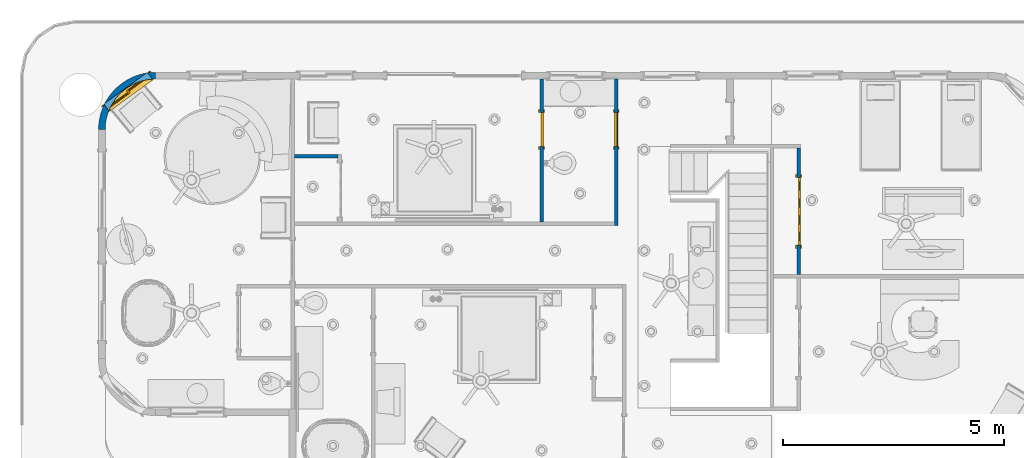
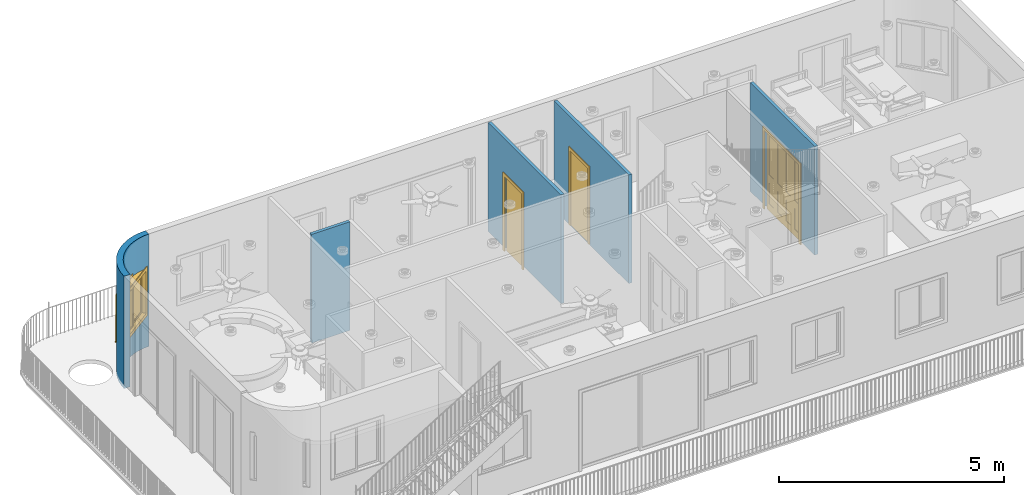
# One storey, part 5 of 28: 5 walls, 3 doors, 1 window, 4 openings.
"""IFC2X3 building model written with IfcOpenShell, lengths in feet."""

from ifc_helpers import new_model, entity, si_unit, converted_unit, derived_unit, direction, frame, frame_2d, origin, origin_2d_with_axis, place, context, subcontext, project, spatial, polyline, circle_curve, parameter, trimmed, segment, composite_curve, rectangle, outline, extrude, source, transform, mapped, material, material_list, layer, layer_set, layer_usage, type_object, type_shapes, element, fill, save


model = new_model("IFC2X3")

# Units and contexts
model_context = context("Model", 3, precision=0.0001, world=origin(), true_north=direction((6.12303176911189e-17, 1.0)))
body_context = subcontext(model_context, "Body", "Model", "MODEL_VIEW")
ifc_project = project(units=[converted_unit("LENGTHUNIT", "FOOT", entity("IfcRatioMeasure", 0.3048), si_unit("LENGTHUNIT", "METRE"), dimensions=[1, 0, 0, 0, 0, 0, 0]), converted_unit("AREAUNIT", "SQUARE FOOT", entity("IfcRatioMeasure", 0.09290304), si_unit("AREAUNIT", "SQUARE_METRE"), dimensions=[2, 0, 0, 0, 0, 0, 0]), converted_unit("VOLUMEUNIT", "CUBIC FOOT", entity("IfcRatioMeasure", 0.028316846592), si_unit("VOLUMEUNIT", "CUBIC_METRE"), dimensions=[3, 0, 0, 0, 0, 0, 0]), converted_unit("PLANEANGLEUNIT", "DEGREE", entity("IfcRatioMeasure", 0.0174532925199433), si_unit("PLANEANGLEUNIT", "RADIAN"), dimensions=[0, 0, 0, 0, 0, 0, 0]), si_unit("MASSUNIT", "GRAM", prefix="KILO"), derived_unit("MASSDENSITYUNIT", [(si_unit("MASSUNIT", "GRAM", prefix="KILO"), 1), (si_unit("LENGTHUNIT", "METRE"), -3)]), si_unit("TIMEUNIT", "SECOND"), si_unit("FREQUENCYUNIT", "HERTZ"), si_unit("THERMODYNAMICTEMPERATUREUNIT", "DEGREE_CELSIUS"), derived_unit("THERMALTRANSMITTANCEUNIT", [(si_unit("MASSUNIT", "GRAM", prefix="KILO"), 1), (si_unit("THERMODYNAMICTEMPERATUREUNIT", "KELVIN"), -1), (si_unit("TIMEUNIT", "SECOND"), -3)]), derived_unit("VOLUMETRICFLOWRATEUNIT", [(si_unit("LENGTHUNIT", "METRE"), 3), (si_unit("TIMEUNIT", "SECOND"), -1)]), si_unit("ELECTRICCURRENTUNIT", "AMPERE"), si_unit("ELECTRICVOLTAGEUNIT", "VOLT"), si_unit("POWERUNIT", "WATT"), si_unit("FORCEUNIT", "NEWTON"), si_unit("ILLUMINANCEUNIT", "LUX"), si_unit("LUMINOUSFLUXUNIT", "LUMEN"), si_unit("LUMINOUSINTENSITYUNIT", "CANDELA"), derived_unit("USERDEFINED", [(si_unit("MASSUNIT", "GRAM", prefix="KILO"), -1), (si_unit("LENGTHUNIT", "METRE"), -2), (si_unit("TIMEUNIT", "SECOND"), 3), (si_unit("LUMINOUSFLUXUNIT", "LUMEN"), 1)]), derived_unit("LINEARVELOCITYUNIT", [(si_unit("LENGTHUNIT", "METRE"), 1), (si_unit("TIMEUNIT", "SECOND"), -1)]), si_unit("PRESSUREUNIT", "PASCAL"), derived_unit("USERDEFINED", [(si_unit("LENGTHUNIT", "METRE"), -2), (si_unit("MASSUNIT", "GRAM", prefix="KILO"), 1), (si_unit("TIMEUNIT", "SECOND"), -2)])], contexts=[model_context])

# Site, building, storey
site_placement = place(None, origin())
site = spatial("IfcSite", under=ifc_project, at=site_placement, Name="表面", CompositionType="ELEMENT")
building_placement = place(site_placement, origin())
building = spatial("IfcBuilding", under=site, at=building_placement, CompositionType="ELEMENT")
storey_placement = place(building_placement, frame((0.0, 0.0, 10.0)))
storey = spatial("IfcBuildingStorey", under=building, at=storey_placement, Name="Level 2", CompositionType="ELEMENT", Elevation=9.99999999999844)

# Wall, opening, window
ifc_material_1 = material(Name="Paint")
ifc_layer_1 = layer(ifc_material_1, 0.333333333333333)
ifc_material_2 = material(Name="Paints and Coatings")
ifc_layer_2 = layer(ifc_material_2, 0.166666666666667)
ifc_layer_set_1 = layer_set([ifc_layer_1, ifc_layer_2], Name="基本墙:Generic - 4\" Brick")
ifc_layer_usage_1 = layer_usage(ifc_layer_set_1, "AXIS2", "POSITIVE", -0.25)
wall_type_1 = type_object("IfcWallType", Name="基本墙:Generic - 4\" Brick", PredefinedType="STANDARD", material=ifc_layer_set_1)
wall_1_placement = place(storey_placement, frame((-34.0349130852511, 12.6823936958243, 0.0)))
wall_1 = element("IfcWallStandardCase", 1, at=wall_1_placement, inside=storey, type_object=wall_type_1, material=ifc_layer_usage_1, Name="基本墙:Generic - 4\" Brick", ObjectType="基本墙:Generic - 4\" Brick:257", context=body_context, shape_type="SweptSolid", body=[
    extrude(outline(composite_curve([segment(trimmed(circle_curve(frame_2d((4.0, 0.0), x_axis=(1.0, 0.0)), 4.25), [parameter(89.9999999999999)], [parameter(180.0)], True, "PARAMETER"), True, "CONTINUOUS"), segment(polyline([(-0.25, 0.0), (0.25, 0.0)]), True, "CONTINUOUS"), segment(trimmed(circle_curve(frame_2d((4.0, 0.0), x_axis=(1.0, 0.0)), 3.75), [parameter(89.9999999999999)], [parameter(180.0)], True, "PARAMETER"), False, "CONTINUOUS"), segment(polyline([(4.0, 3.75000000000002), (4.0, 4.25000000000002)]), True, "CONTINUOUS")], self_intersect=False)), origin(), (0.0, 0.0, 1.0), 9.99999999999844),
])
opening_1_placement = place(wall_1_placement, frame((2.8701933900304, -1.8463156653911, 3.0)))
opening_1 = element("IfcOpeningElement", 2, at=opening_1_placement, cuts=wall_1, Name="Slider with Trim:48\" x 48\":1", ObjectType="Opening", context=body_context, shape_type="SweptSolid", body=[
    extrude(rectangle(XDim=3.99999999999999, YDim=3.99999999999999, at=frame_2d((2.0, 2.0), x_axis=(-1.0, 0.0))), frame((0.0, 0.0, 0.0), z_axis=(-0.588497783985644, 0.808498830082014, 0.0), x_axis=(0.0, 0.0, 1.0)), (0.0, 0.0, 1.0), 4.62701640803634),
])
ifc_material_3 = material(Name="Glass")
ifc_material_4 = material(Name="Sash")
ifc_material_5 = material(Name="Trim")
ifc_material_list_1 = material_list([ifc_material_3, ifc_material_4, ifc_material_5])
ifc_material_list_2 = material_list([ifc_material_3, ifc_material_4, ifc_material_5])
window_style = type_object("IfcWindowStyle", Name="48\" x 48\"", ConstructionType="NOTDEFINED", OperationType="NOTDEFINED", ParameterTakesPrecedence=False, Sizeable=False, material=ifc_material_list_2)
shared_shape_1 = source(origin(), body_context, "Body", "SweptSolid", [
    extrude(rectangle(XDim=0.0416666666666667, YDim=1.71875000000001, at=origin_2d_with_axis()), frame((1.06770833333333, 0.21875, 0.208333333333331), z_axis=(0.0, 0.0, 1.0), x_axis=(0.0, -1.0, 0.0)), (0.0, 0.0, 1.0), 3.58333333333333),
    extrude(outline(polyline([(-1.00520833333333, -1.9375), (1.00520833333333, -1.9375), (1.00520833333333, 1.9375), (-1.00520833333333, 1.9375), (-1.00520833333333, -1.9375)]), holes=[polyline([(-0.859374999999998, -1.79166666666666), (-0.859374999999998, 1.79166666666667), (0.859374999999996, 1.79166666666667), (0.859374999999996, -1.79166666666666), (-0.859374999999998, -1.79166666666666)])]), frame((1.06770833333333, 0.145833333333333, 2.0), z_axis=(0.0, 1.0, 0.0), x_axis=(1.0, 0.0, 0.0)), (0.0, 0.0, 1.0), 0.145833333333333),
    extrude(rectangle(XDim=0.104166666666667, YDim=4.45833333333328, at=frame_2d((-2.77555756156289e-17, 0.0), x_axis=(1.0, 0.0))), frame((2.0, 0.552083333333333, 0.0), z_axis=(0.0, 0.0, 1.0), x_axis=(0.0, -1.0, 0.0)), (0.0, 0.0, 1.0), 0.0624999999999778),
    extrude(outline(polyline([(-1.86458333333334, 1.9375), (2.01041666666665, 1.9375), (2.01041666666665, 2.22916666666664), (-2.15624999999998, 2.22916666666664), (-2.15624999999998, -2.22916666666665), (2.01041666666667, -2.22916666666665), (2.01041666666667, -1.93749999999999), (-1.86458333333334, -1.93749999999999), (-1.86458333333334, 1.9375)])), frame((2.0, 0.5, 2.07291666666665), z_axis=(0.0, 1.0, 0.0), x_axis=(0.0, 0.0, -1.0)), (0.0, 0.0, 1.0), 0.0625),
    extrude(outline(polyline([(-2.18749999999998, -2.18749999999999), (2.18749999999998, -2.18749999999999), (2.18749999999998, 2.18749999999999), (-2.18749999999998, 2.18749999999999), (-2.18749999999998, -2.18749999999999)]), holes=[polyline([(-1.89583333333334, -1.89583333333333), (-1.89583333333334, 1.89583333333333), (1.89583333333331, 1.89583333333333), (1.89583333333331, -1.89583333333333), (-1.89583333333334, -1.89583333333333)])]), frame((2.0, -0.0625, 2.0), z_axis=(0.0, 1.0, 0.0), x_axis=(0.0, 0.0, -1.0)), (0.0, 0.0, 1.0), 0.0625),
    extrude(rectangle(XDim=0.0416666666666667, YDim=1.71874999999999, at=frame_2d((1.38777878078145e-17, 0.0), x_axis=(1.0, 0.0))), frame((2.93229166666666, 0.364583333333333, 0.208333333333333), z_axis=(0.0, 0.0, 1.0), x_axis=(0.0, 1.0, 0.0)), (0.0, 0.0, 1.0), 3.58333333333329),
    extrude(outline(polyline([(-1.00520833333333, -1.93749999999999), (1.00520833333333, -1.93749999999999), (1.00520833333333, 1.93749999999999), (-1.00520833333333, 1.93749999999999), (-1.00520833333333, -1.93749999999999)]), holes=[polyline([(-0.859374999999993, -1.79166666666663), (-0.859374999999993, 1.79166666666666), (0.859374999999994, 1.79166666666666), (0.859374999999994, -1.79166666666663), (-0.859374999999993, -1.79166666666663)])]), frame((2.93229166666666, 0.291666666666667, 2.0), z_axis=(0.0, 1.0, 0.0), x_axis=(1.0, 0.0, 0.0)), (0.0, 0.0, 1.0), 0.145833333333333),
    extrude(outline(polyline([(-2.0, -2.0), (2.0, -2.0), (2.0, 2.0), (-2.0, 2.0), (-2.0, -2.0)]), holes=[polyline([(-1.89583333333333, -1.89583333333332), (-1.89583333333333, 1.89583333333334), (1.89583333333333, 1.89583333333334), (1.89583333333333, -1.89583333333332), (-1.89583333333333, -1.89583333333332)])]), frame((2.0, 0.0, 2.0), z_axis=(0.0, 1.0, 0.0), x_axis=(1.0, 0.0, 0.0)), (0.0, 0.0, 1.0), 0.145833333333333),
    extrude(outline(polyline([(-2.0, -2.0), (2.0, -2.0), (2.0, 2.0), (-2.0, 2.0), (-2.0, -2.0)]), holes=[polyline([(-1.9375, -1.93749999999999), (-1.9375, 1.9375), (1.9375, 1.9375), (1.9375, -1.93749999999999), (-1.9375, -1.93749999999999)])]), frame((2.0, 0.145833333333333, 2.0), z_axis=(0.0, 1.0, 0.0), x_axis=(0.0, 0.0, -1.0)), (0.0, 0.0, 1.0), 0.354166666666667),
])
type_shapes(window_style, [shared_shape_1])
window_placement = place(opening_1_placement, frame((-2.35399099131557, 3.23399512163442, 0.0), z_axis=(0.0, 0.0, 1.0), x_axis=(0.808498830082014, 0.588497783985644, 0.0)))
window = element("IfcWindow", 3, at=window_placement, inside=storey, type_object=window_style, material=ifc_material_list_1, Name="Slider with Trim:48\" x 48\"", ObjectType="48\" x 48\"", OverallHeight=3.99999999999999, OverallWidth=3.99999999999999, context=body_context, shape_type="MappedRepresentation", body=[
    mapped(shared_shape_1, transform((0.0, 0.0, 0.0), scale=1.0)),
])
fill(opening_1, window)

# Wall, opening, door
ifc_material_6 = material(Name="Gypsum Wall Board")
ifc_layer_3 = layer(ifc_material_6, 0.0416666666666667)
ifc_layer_4 = layer(ifc_material_6, 0.0208333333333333)
ifc_material_7 = material(Name="Metal - Stud Layer")
ifc_layer_5 = layer(ifc_material_7, 0.135416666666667)
ifc_layer_6 = layer(ifc_material_6, 0.0208333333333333)
ifc_layer_7 = layer(ifc_material_6, 0.0416666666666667)
ifc_layer_set_2 = layer_set([ifc_layer_3, ifc_layer_4, ifc_layer_5, ifc_layer_6, ifc_layer_7], Name="基本墙:Interior - 3 1/8\" Partition (1-hr)")
ifc_layer_usage_2 = layer_usage(ifc_layer_set_2, "AXIS2", "NEGATIVE", 0.130208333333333)
wall_type_2 = type_object("IfcWallType", Name="基本墙:Interior - 3 1/8\" Partition (1-hr)", PredefinedType="STANDARD", material=ifc_layer_set_2)
wall_2_placement = place(storey_placement, frame((-1.36824641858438, 5.81260202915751, 0.250000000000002), z_axis=(0.0, 0.0, 1.0), x_axis=(0.0, 1.0, 0.0)))
wall_2 = element("IfcWallStandardCase", 4, at=wall_2_placement, inside=storey, type_object=wall_type_2, material=ifc_layer_usage_2, Name="基本墙:Interior - 3 1/8\" Partition (1-hr)", ObjectType="基本墙:Interior - 3 1/8\" Partition (1-hr):258", context=body_context, shape_type="SweptSolid", body=[
    extrude(rectangle(XDim=10.6197916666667, YDim=0.260416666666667, at=frame_2d((5.30989583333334, 2.77555756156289e-17), x_axis=(-1.0, 0.0))), origin(), (0.0, 0.0, 1.0), 9.66666666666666),
])
opening_2_placement = place(wall_2_placement, frame((8.11979166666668, 0.130208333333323, -0.250000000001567)))
opening_2 = element("IfcOpeningElement", 5, at=opening_2_placement, cuts=wall_2, Name="Single-Flush:30\" x 80\":1", ObjectType="Opening", context=body_context, shape_type="SweptSolid", body=[
    extrude(rectangle(XDim=2.5, YDim=6.66666666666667, at=frame_2d((3.33333333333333, 1.25), x_axis=(0.0, 1.0))), frame((0.0, 0.0, 0.0), z_axis=(0.0, -1.0, 0.0), x_axis=(0.0, 0.0, 1.0)), (0.0, 0.0, 1.0), 0.260416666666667),
])
ifc_material_8 = material(Name="Door - Frame")
ifc_material_9 = material(Name="Door - Panel")
ifc_material_list_3 = material_list([ifc_material_8, ifc_material_9])
ifc_material_list_4 = material_list([ifc_material_8, ifc_material_9])
door_style_1 = type_object("IfcDoorStyle", Name="30\" x 80\"", ConstructionType="NOTDEFINED", OperationType="SINGLE_SWING_RIGHT", ParameterTakesPrecedence=False, Sizeable=False, material=ifc_material_list_4)
shared_shape_2 = source(origin(), body_context, "Body", "SweptSolid", [
    extrude(outline(polyline([(-1.5, -3.52083333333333), (1.5, -3.52083333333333), (1.5, 3.39583333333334), (1.25, 3.39583333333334), (1.25, -3.27083333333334), (-1.25, -3.27083333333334), (-1.25, 3.39583333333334), (-1.5, 3.39583333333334), (-1.5, -3.52083333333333)])), frame((1.25, 0.260416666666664, 3.39583333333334), z_axis=(0.0, 1.0, 0.0), x_axis=(1.0, 0.0, 0.0)), (0.0, 0.0, 1.0), 0.0833333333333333),
    extrude(outline(polyline([(-3.52083333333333, -1.49999999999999), (3.39583333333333, -1.49999999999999), (3.39583333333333, -1.25000000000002), (-3.27083333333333, -1.25000000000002), (-3.27083333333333, 1.25000000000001), (3.39583333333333, 1.25000000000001), (3.39583333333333, 1.50000000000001), (-3.52083333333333, 1.50000000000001), (-3.52083333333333, -1.49999999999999)])), frame((1.25000000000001, -0.0833333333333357, 3.39583333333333), z_axis=(0.0, 1.0, 0.0), x_axis=(0.0, 0.0, -1.0)), (0.0, 0.0, 1.0), 0.0833333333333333),
    extrude(rectangle(XDim=0.166666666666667, YDim=2.5, at=origin_2d_with_axis()), frame((1.25, 0.177083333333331, 0.0), z_axis=(0.0, 0.0, 1.0), x_axis=(0.0, 1.0, 0.0)), (0.0, 0.0, 1.0), 6.66666666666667),
])
type_shapes(door_style_1, [shared_shape_2])
door_1_placement = place(opening_2_placement, frame((0.0, 0.0, 0.0), z_axis=(0.0, 0.0, 1.0), x_axis=(-1.0, 0.0, 0.0)))
door_1 = element("IfcDoor", 6, at=door_1_placement, inside=storey, type_object=door_style_1, material=ifc_material_list_3, Name="Single-Flush:30\" x 80\"", ObjectType="30\" x 80\"", OverallHeight=6.66666666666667, OverallWidth=2.5, context=body_context, shape_type="MappedRepresentation", body=[
    mapped(shared_shape_2, transform((0.0, 0.0, 0.0), scale=1.0)),
])
fill(opening_2, door_1)

# Wall
ifc_layer_usage_3 = layer_usage(ifc_layer_set_2, "AXIS2", "NEGATIVE", 0.130208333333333)
wall_3_placement = place(storey_placement, frame((-16.4984547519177, 10.6823936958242, 0.250000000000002), z_axis=(0.0, 0.0, 1.0), x_axis=(-1.0, 0.0, 0.0)))
element("IfcWallStandardCase", 7, at=wall_3_placement, inside=storey, type_object=wall_type_2, material=ifc_layer_usage_3, Name="基本墙:Interior - 3 1/8\" Partition (1-hr)", ObjectType="基本墙:Interior - 3 1/8\" Partition (1-hr):258", context=body_context, shape_type="SweptSolid", body=[
    extrude(rectangle(XDim=3.23958333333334, YDim=0.260416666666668, at=frame_2d((1.61979166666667, -4.02455846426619e-16), x_axis=(-1.0, 0.0))), origin(), (0.0, 0.0, 1.0), 9.66666666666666),
])

# Wall, opening, door
ifc_layer_usage_4 = layer_usage(ifc_layer_set_2, "AXIS2", "NEGATIVE", 0.130208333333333)
wall_4_placement = place(storey_placement, frame((4.17862858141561, 5.55218536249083, 0.250000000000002), z_axis=(0.0, 0.0, 1.0), x_axis=(0.0, 1.0, 0.0)))
wall_4 = element("IfcWallStandardCase", 8, at=wall_4_placement, inside=storey, type_object=wall_type_2, material=ifc_layer_usage_4, Name="基本墙:Interior - 3 1/8\" Partition (1-hr)", ObjectType="基本墙:Interior - 3 1/8\" Partition (1-hr):258", context=body_context, shape_type="SweptSolid", body=[
    extrude(rectangle(XDim=10.8802083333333, YDim=0.260416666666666, at=frame_2d((5.44010416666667, -9.71445146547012e-17), x_axis=(-1.0, 0.0))), origin(), (0.0, 0.0, 1.0), 9.66666666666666),
])
opening_3_placement = place(wall_4_placement, frame((5.88020833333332, -0.13020833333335, 0.0833333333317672)))
opening_3 = element("IfcOpeningElement", 9, at=opening_3_placement, cuts=wall_4, Name="Single-Flush:30\" x 80\":1", ObjectType="Opening", context=body_context, shape_type="SweptSolid", body=[
    extrude(rectangle(XDim=2.5, YDim=6.66666666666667, at=frame_2d((3.33333333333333, 1.25), x_axis=(0.0, -1.0))), frame((0.0, 0.0, 0.0), z_axis=(0.0, 1.0, 0.0), x_axis=(0.0, 0.0, 1.0)), (0.0, 0.0, 1.0), 0.260416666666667),
])
ifc_material_list_5 = material_list([ifc_material_8, ifc_material_9])
ifc_material_list_6 = material_list([ifc_material_8, ifc_material_9])
door_style_2 = type_object("IfcDoorStyle", Name="30\" x 80\"", ConstructionType="NOTDEFINED", OperationType="SINGLE_SWING_LEFT", ParameterTakesPrecedence=False, Sizeable=False, material=ifc_material_list_6)
shared_shape_3 = source(origin(), body_context, "Body", "SweptSolid", [
    extrude(outline(polyline([(-1.5, -3.52083333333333), (1.5, -3.52083333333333), (1.5, 3.39583333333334), (1.25, 3.39583333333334), (1.25, -3.27083333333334), (-1.25, -3.27083333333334), (-1.25, 3.39583333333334), (-1.5, 3.39583333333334), (-1.5, -3.52083333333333)])), frame((1.25, 0.34374999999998, 3.39583333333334), z_axis=(0.0, -1.0, 0.0), x_axis=(-1.0, 0.0, 0.0)), (0.0, 0.0, 1.0), 0.0833333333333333),
    extrude(outline(polyline([(-3.52083333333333, -1.49999999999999), (3.39583333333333, -1.49999999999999), (3.39583333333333, -1.25000000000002), (-3.27083333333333, -1.25000000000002), (-3.27083333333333, 1.25000000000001), (3.39583333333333, 1.25000000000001), (3.39583333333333, 1.50000000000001), (-3.52083333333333, 1.50000000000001), (-3.52083333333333, -1.49999999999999)])), frame((1.24999999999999, 0.0, 3.39583333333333), z_axis=(0.0, -1.0, 0.0), x_axis=(0.0, 0.0, -1.0)), (0.0, 0.0, 1.0), 0.0833333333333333),
    extrude(rectangle(XDim=2.5, YDim=0.166666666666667, at=origin_2d_with_axis()), frame((1.25, 0.177083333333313, 0.0)), (0.0, 0.0, 1.0), 6.66666666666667),
])
type_shapes(door_style_2, [shared_shape_3])
door_2_placement = place(opening_3_placement, origin())
door_2 = element("IfcDoor", 10, at=door_2_placement, inside=storey, type_object=door_style_2, material=ifc_material_list_5, Name="Single-Flush:30\" x 80\"", ObjectType="30\" x 80\"", OverallHeight=6.66666666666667, OverallWidth=2.5, context=body_context, shape_type="MappedRepresentation", body=[
    mapped(shared_shape_3, transform((0.0, 0.0, 0.0), scale=1.0)),
])
fill(opening_3, door_2)

ifc_layer_usage_5 = layer_usage(ifc_layer_set_2, "AXIS2", "NEGATIVE", 0.130208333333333)
wall_5_placement = place(storey_placement, frame((17.7150869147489, 11.3021853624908, 0.250000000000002), z_axis=(0.0, 0.0, 1.0), x_axis=(0.0, -1.0, 0.0)))
wall_5 = element("IfcWallStandardCase", 11, at=wall_5_placement, inside=storey, type_object=wall_type_2, material=ifc_layer_usage_5, Name="基本墙:Interior - 3 1/8\" Partition (1-hr)", ObjectType="基本墙:Interior - 3 1/8\" Partition (1-hr):258", context=body_context, shape_type="SweptSolid", body=[
    extrude(rectangle(XDim=9.40624999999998, YDim=0.260416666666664, at=frame_2d((4.70312499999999, -1.94289029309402e-16), x_axis=(-1.0, 0.0))), origin(), (0.0, 0.0, 1.0), 9.66666666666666),
])
opening_4_placement = place(wall_5_placement, frame((2.20312499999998, -0.13020833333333, -0.250000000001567)))
opening_4 = element("IfcOpeningElement", 12, at=opening_4_placement, cuts=wall_5, Name="Bifold-4 Panel:60\" x 84\":1", ObjectType="Opening", context=body_context, shape_type="SweptSolid", body=[
    extrude(rectangle(XDim=7.0, YDim=5.0, at=frame_2d((3.5, 2.5), x_axis=(1.0, 0.0))), frame((0.0, 0.0, 0.0), z_axis=(0.0, 1.0, 0.0), x_axis=(0.0, 0.0, 1.0)), (0.0, 0.0, 1.0), 0.260416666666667),
])
ifc_material_list_7 = material_list([ifc_material_9, ifc_material_8])
ifc_material_list_8 = material_list([ifc_material_9, ifc_material_8])
door_style_3 = type_object("IfcDoorStyle", Name="60\" x 84\"", ConstructionType="NOTDEFINED", OperationType="NOTDEFINED", ParameterTakesPrecedence=False, Sizeable=False, material=ifc_material_list_8)
shared_shape_4 = source(origin(), body_context, "Body", "SweptSolid", [
    extrude(rectangle(XDim=0.0416666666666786, YDim=0.666666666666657, at=frame_2d((6.93889390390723e-18, 0.0), x_axis=(1.0, 0.0))), frame((0.624999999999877, 0.197916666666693, 3.16666666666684), z_axis=(0.0, 0.0, 1.0), x_axis=(0.0, -1.0, 0.0)), (0.0, 0.0, 1.0), 3.56250000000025),
    extrude(rectangle(XDim=0.0416666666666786, YDim=0.666666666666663, at=frame_2d((-6.93889390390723e-18, 0.0), x_axis=(1.0, 0.0))), frame((4.37499999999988, 0.19791666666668, 3.16666666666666), z_axis=(0.0, 0.0, 1.0), x_axis=(0.0, -1.0, 0.0)), (0.0, 0.0, 1.0), 3.56250000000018),
    extrude(rectangle(XDim=0.0416666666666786, YDim=0.666666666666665, at=frame_2d((-6.93889390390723e-18, -1.11022302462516e-16), x_axis=(1.0, 0.0))), frame((4.37499999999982, 0.19791666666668, 0.604166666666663), z_axis=(0.0, 0.0, 1.0), x_axis=(0.0, -1.0, 0.0)), (0.0, 0.0, 1.0), 1.85416666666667),
    extrude(rectangle(XDim=0.0416666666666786, YDim=0.666666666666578, at=frame_2d((-6.93889390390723e-18, 0.0), x_axis=(1.0, 0.0))), frame((3.12499999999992, 0.197916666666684, 3.16666666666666), z_axis=(0.0, 0.0, 1.0), x_axis=(0.0, -1.0, 0.0)), (0.0, 0.0, 1.0), 3.56250000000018),
    extrude(rectangle(XDim=0.0416666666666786, YDim=0.66666666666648, at=frame_2d((-6.93889390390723e-18, 0.0), x_axis=(1.0, 0.0))), frame((3.12499999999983, 0.197916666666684, 0.604166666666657), z_axis=(0.0, 0.0, 1.0), x_axis=(0.0, -1.0, 0.0)), (0.0, 0.0, 1.0), 1.85416666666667),
    extrude(rectangle(XDim=0.0416666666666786, YDim=0.666666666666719, at=frame_2d((-6.93889390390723e-18, 0.0), x_axis=(1.0, 0.0))), frame((1.87499999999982, 0.197916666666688, 0.604166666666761), z_axis=(0.0, 0.0, 1.0), x_axis=(0.0, -1.0, 0.0)), (0.0, 0.0, 1.0), 1.85416666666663),
    extrude(rectangle(XDim=0.0416666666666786, YDim=0.666666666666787, at=frame_2d((-6.93889390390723e-18, 0.0), x_axis=(1.0, 0.0))), frame((1.87499999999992, 0.197916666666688, 3.16666666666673), z_axis=(0.0, 0.0, 1.0), x_axis=(0.0, -1.0, 0.0)), (0.0, 0.0, 1.0), 3.56250000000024),
    extrude(rectangle(XDim=0.0416666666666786, YDim=0.666666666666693, at=frame_2d((6.93889390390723e-18, 0.0), x_axis=(1.0, 0.0))), frame((0.624999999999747, 0.197916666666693, 0.604166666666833), z_axis=(0.0, 0.0, 1.0), x_axis=(0.0, -1.0, 0.0)), (0.0, 0.0, 1.0), 1.85416666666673),
    extrude(outline(polyline([(-2.74999999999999, -3.5625), (-2.50000000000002, -3.5625), (-2.50000000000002, 3.4375), (2.5, 3.4375), (2.5, -3.5625), (2.75000000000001, -3.5625), (2.75000000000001, 3.6875), (-2.74999999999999, 3.6875), (-2.74999999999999, -3.5625)])), frame((2.50000000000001, -0.0833333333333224, 3.5625), z_axis=(0.0, 1.0, 0.0), x_axis=(-1.0, 0.0, 0.0)), (0.0, 0.0, 1.0), 0.0833333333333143),
    extrude(outline(polyline([(-2.75000000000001, -3.5625), (-2.49999999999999, -3.5625), (-2.49999999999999, 3.4375), (2.5, 3.4375), (2.5, -3.5625), (2.75, -3.5625), (2.75, 3.6875), (-2.75000000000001, 3.6875), (-2.75000000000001, -3.5625)])), frame((2.50000000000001, 0.260416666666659, 3.5625), z_axis=(0.0, 1.0, 0.0), x_axis=(-1.0, 0.0, 0.0)), (0.0, 0.0, 1.0), 0.0833333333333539),
    extrude(outline(polyline([(-3.5, -0.625), (3.5, -0.625), (3.5, 0.625), (-3.5, 0.625), (-3.5, -0.625)]), holes=[polyline([(3.22916666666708, -0.333333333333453), (-0.333333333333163, -0.333333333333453), (-0.333333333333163, 0.333333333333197), (3.22916666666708, 0.333333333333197), (3.22916666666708, -0.333333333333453)]), polyline([(-1.04166666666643, -0.333333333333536), (-2.89583333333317, -0.333333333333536), (-2.89583333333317, 0.333333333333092), (-1.04166666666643, 0.333333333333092), (-1.04166666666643, -0.333333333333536)])]), frame((0.625000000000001, 0.13541666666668, 3.5), z_axis=(0.0, 1.0, 0.0), x_axis=(0.0, 0.0, 1.0)), (0.0, 0.0, 1.0), 0.124999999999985),
    extrude(outline(polyline([(-3.5, -0.624999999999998), (3.5, -0.624999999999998), (3.5, 0.624999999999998), (-3.5, 0.624999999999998), (-3.5, -0.624999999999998)]), holes=[polyline([(3.22916666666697, -0.333333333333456), (-0.333333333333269, -0.333333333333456), (-0.333333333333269, 0.333333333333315), (3.22916666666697, 0.333333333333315), (3.22916666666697, -0.333333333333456)]), polyline([(-1.04166666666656, -0.333333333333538), (-2.89583333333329, -0.333333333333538), (-2.89583333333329, 0.333333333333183), (-1.04166666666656, 0.333333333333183), (-1.04166666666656, -0.333333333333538)])]), frame((1.875, 0.135416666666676, 3.5), z_axis=(0.0, 1.0, 0.0), x_axis=(0.0, 0.0, 1.0)), (0.0, 0.0, 1.0), 0.124999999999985),
    extrude(outline(polyline([(-3.5, -0.625000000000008), (3.5, -0.625000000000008), (3.5, 0.625000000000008), (-3.5, 0.625000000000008), (-3.5, -0.625000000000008)]), holes=[polyline([(3.22916666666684, -0.333333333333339), (-0.333333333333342, -0.333333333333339), (-0.333333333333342, 0.333333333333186), (3.22916666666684, 0.333333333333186), (3.22916666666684, -0.333333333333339)]), polyline([(-1.04166666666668, -0.333333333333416), (-2.89583333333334, -0.333333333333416), (-2.89583333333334, 0.333333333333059), (-1.04166666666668, 0.333333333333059), (-1.04166666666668, -0.333333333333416)])]), frame((3.12500000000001, 0.135416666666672, 3.5), z_axis=(0.0, 1.0, 0.0), x_axis=(0.0, 0.0, 1.0)), (0.0, 0.0, 1.0), 0.124999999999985),
    extrude(outline(polyline([(-3.5, -0.625000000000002), (3.5, -0.625000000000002), (3.5, 0.625000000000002), (-3.5, 0.625000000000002), (-3.5, -0.625000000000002)]), holes=[polyline([(3.22916666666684, -0.333333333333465), (-0.333333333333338, -0.333333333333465), (-0.333333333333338, 0.333333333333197), (3.22916666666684, 0.333333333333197), (3.22916666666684, -0.333333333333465)]), polyline([(-1.04166666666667, -0.333333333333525), (-2.89583333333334, -0.333333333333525), (-2.89583333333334, 0.333333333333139), (-1.04166666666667, 0.333333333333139), (-1.04166666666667, -0.333333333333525)])]), frame((4.37500000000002, 0.135416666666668, 3.5), z_axis=(0.0, 1.0, 0.0), x_axis=(0.0, 0.0, 1.0)), (0.0, 0.0, 1.0), 0.124999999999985),
])
type_shapes(door_style_3, [shared_shape_4])
door_3_placement = place(opening_4_placement, origin())
door_3 = element("IfcDoor", 13, at=door_3_placement, inside=storey, type_object=door_style_3, material=ifc_material_list_7, Name="Bifold-4 Panel:60\" x 84\"", ObjectType="60\" x 84\"", OverallHeight=7.0, OverallWidth=5.0, context=body_context, shape_type="MappedRepresentation", body=[
    mapped(shared_shape_4, transform((0.0, 0.0, 0.0), scale=1.0)),
])
fill(opening_4, door_3)

save(model, "model.ifc")
